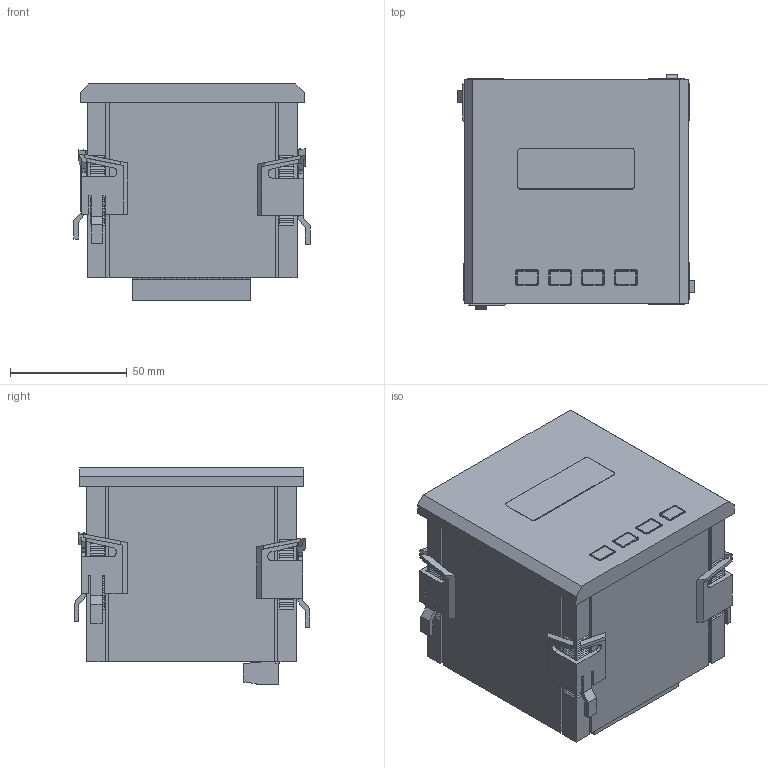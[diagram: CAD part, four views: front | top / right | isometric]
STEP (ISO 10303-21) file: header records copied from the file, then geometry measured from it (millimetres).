
FILE_DESCRIPTION(/* description */ (''),/* implementation_level */ '2;1');
FILE_NAME(/* name */ 'T:\EngMecanica\DESENHOS INVENTOR\Catalogo 2019\Arquivos STEP\KDG 96x96.stp',/* time_stamp */ '2024-11-26T11:05:46-03:00',/* author */ ('jose.luis'),/* organization */ (''),/* preprocessor_version */ 'ST-DEVELOPER v18.1',/* originating_system */ 'Autodesk Inventor 2021',/* authorisation */ '');
FILE_SCHEMA (('AUTOMOTIVE_DESIGN { 1 0 10303 214 3 1 1 }'));
Products named in the file (13): IKRON; Corpo ikron Amperimetro; Dígito numero 2; Dígito numero 7; ponto; Dígito numero 1; Visor; 1768260; 1912045; Botão verde menu; Botão verde; Botão verde seta para cima; Trava para painel
Assembly tree (17 placements, depth 2):
  IKRON
    Corpo ikron Amperimetro
    Dígito numero 2
    Dígito numero 7
    Dígito numero 1  x2
    ponto
    Visor
    1768260
    1912045
    Botão verde menu
    Botão verde
    Botão verde seta para cima  x2
    Trava para painel  x4
Bounding box: 101.19 x 100.97 x 92.99 mm (x, y, z)
Volume: 685379.1 mm3; surface area: 75200.2 mm2
Topology: 17 solids, 17 shells, 2972 faces, 6817 edges, 4032 vertices
Faces by surface type: plane 2596, cylinder 316, cone 36, torus 16, bspline 8
Full cylindrical faces by diameter (mm): 2 x1
Entity records: 78026 total; most frequent: CARTESIAN_POINT 13549, DIRECTION 12806, ORIENTED_EDGE 12638, EDGE_CURVE 6319, LINE 5406, VECTOR 5406, VERTEX_POINT 3703, AXIS2_PLACEMENT_3D 3700
